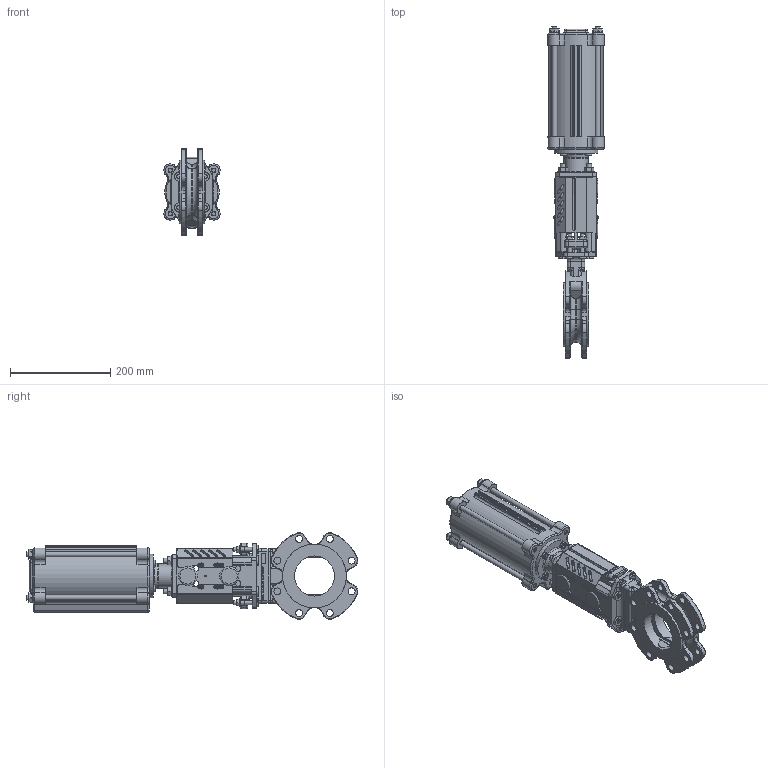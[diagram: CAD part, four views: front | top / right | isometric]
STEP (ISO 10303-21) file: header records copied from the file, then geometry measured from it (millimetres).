
FILE_DESCRIPTION(/* description */ (''),/* implementation_level */ '2;1');
FILE_NAME(/* name */ 'F:\Emir\3D-block special\WB\WB14E-DN80-PN10-FRSC100-115.stp',/* time_stamp */ '2018-03-29T15:09:23+02:00',/* author */ ('emimus'),/* organization */ (''),/* preprocessor_version */ 'ST-DEVELOPER v17',/* originating_system */ 'Autodesk Inventor 2018',/* authorisation */ '');
FILE_SCHEMA (('CONFIG_CONTROL_DESIGN'));
Products named in the file (1): WB14E-DN80-PN10-FRSC100-115
Bounding box: 112.17 x 661.11 x 173.22 mm (x, y, z)
Volume: 2191551.8 mm3; surface area: 732950.3 mm2
Topology: 4 solids, 4 shells, 3071 faces, 8008 edges, 5022 vertices
Faces by surface type: plane 1222, cylinder 737, bspline 488, torus 326, cone 216, sphere 82
Full cylindrical faces by diameter (mm): 3 x10, 3.6 x2, 4 x6, 4.134 x4, 4.2 x16, 4.5 x8, 4.917 x4, 6 x6, 7 x1, 8 x19, 8.376 x4, 8.4 x4, 9 x2, 10 x20, 10.106 x1, 10.5 x8, 11 x16, 11.445 x2, 13 x6, 13.835 x16, 14 x1, 14.376 x1, 15 x5, 16 x4, 20 x9, 20.15 x2, 22 x1, 24 x5, 26 x1, 26.4 x1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
Entity records: 104802 total; most frequent: CARTESIAN_POINT 31386, ORIENTED_EDGE 15890, DIRECTION 14798, EDGE_CURVE 7945, AXIS2_PLACEMENT_3D 5657, VERTEX_POINT 5022, LINE 3484, VECTOR 3484
